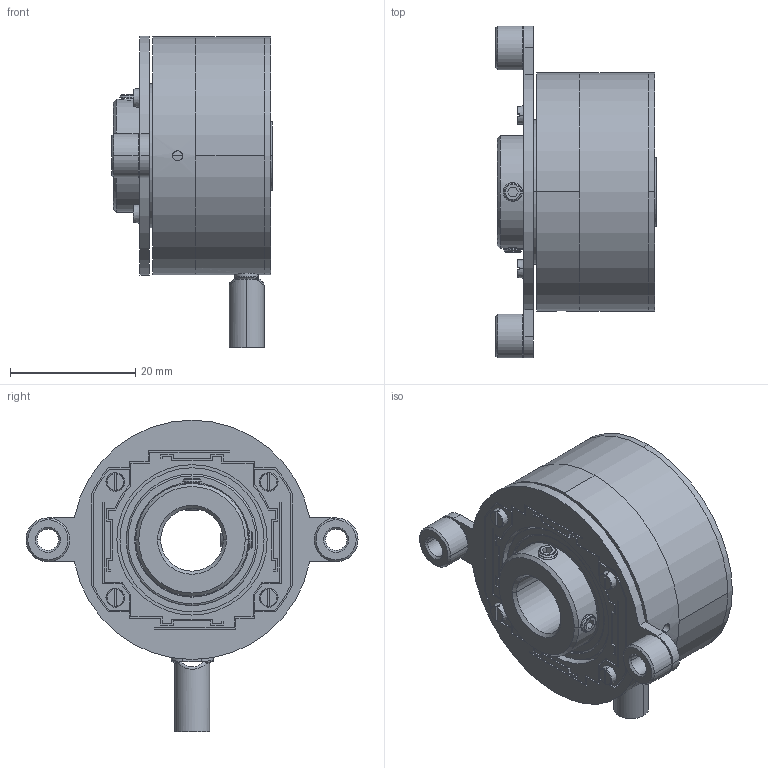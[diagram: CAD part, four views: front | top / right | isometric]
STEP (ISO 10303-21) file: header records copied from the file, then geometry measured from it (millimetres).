
FILE_DESCRIPTION (( 'STEP AP214' ), '1' );
FILE_NAME ('ﾋﾈﾐ-238ﾁ.STEP', '2017-05-23T08:51:39', ( '' ), ( '' ), 'SwSTEP 2.0', 'SolidWorks 2013', '' );
FILE_SCHEMA (( 'AUTOMOTIVE_DESIGN' ));
Length unit declared in the file: millimetre
Products named in the file (1): ﾋﾈﾐ-238ﾁ
Bounding box: 25.61 x 53 x 49.75 mm (x, y, z)
Surface area: 9784.9 mm2 (no closed solid volume)
Topology: 0 solids, 29 shells, 333 faces, 1010 edges, 702 vertices
Faces by surface type: plane 180, cylinder 77, cone 50, torus 18, bspline 8
Entity records: 15934 total; most frequent: CARTESIAN_POINT 3186, DIRECTION 1888, ORIENTED_EDGE 1787, EDGE_CURVE 1010, VERTEX_POINT 702, AXIS2_PLACEMENT_3D 667, LINE 554, VECTOR 554
